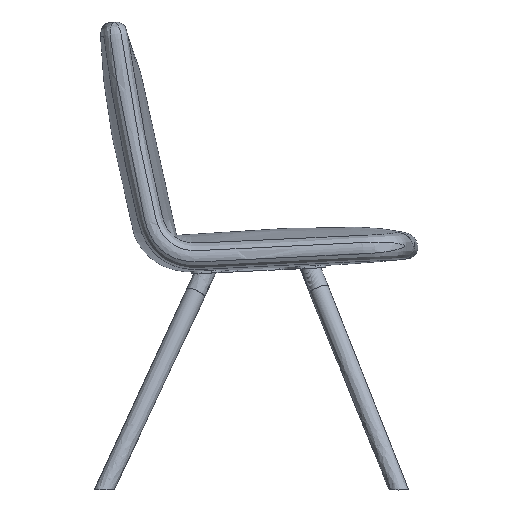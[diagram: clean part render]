
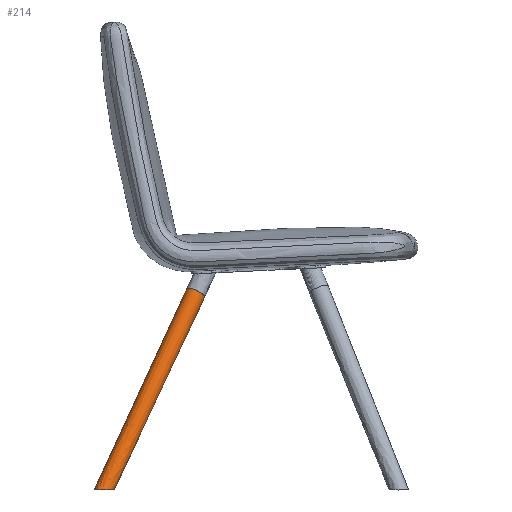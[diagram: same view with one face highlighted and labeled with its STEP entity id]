
A CAD part, left-side view. The second image highlights one B-rep face of the part: STEP entity #214.
In plain terms, the highlighted free-form (B-spline) face has degree [3, 2] with [4, 7] control points.
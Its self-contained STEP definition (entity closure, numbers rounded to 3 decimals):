
#20=(
BOUNDED_CURVE()
B_SPLINE_CURVE(2,(#7420,#7421,#7422,#7423,#7424,#7425,#7426),
 .UNSPECIFIED.,.F.,.F.)
B_SPLINE_CURVE_WITH_KNOTS((3,2,2,3),(0.,10.536,38.025,
65.514),.UNSPECIFIED.)
CURVE()
GEOMETRIC_REPRESENTATION_ITEM()
RATIONAL_B_SPLINE_CURVE((1.,0.956,1.,0.707,1.,0.707,
1.))
REPRESENTATION_ITEM('')
);
#21=(
BOUNDED_CURVE()
B_SPLINE_CURVE(3,(#7427,#7428,#7429,#7430),.UNSPECIFIED.,.F.,.F.)
B_SPLINE_CURVE_WITH_KNOTS((4,4),(28.477,418.11),
 .UNSPECIFIED.)
CURVE()
GEOMETRIC_REPRESENTATION_ITEM()
RATIONAL_B_SPLINE_CURVE((1.,1.,1.,1.))
REPRESENTATION_ITEM('')
);
#22=(
BOUNDED_CURVE()
B_SPLINE_CURVE(3,(#7431,#7432,#7433,#7434),.UNSPECIFIED.,.F.,.F.)
B_SPLINE_CURVE_WITH_KNOTS((4,4),(12.341,418.11),
 .UNSPECIFIED.)
CURVE()
GEOMETRIC_REPRESENTATION_ITEM()
RATIONAL_B_SPLINE_CURVE((1.,1.,1.,1.))
REPRESENTATION_ITEM('')
);
#128=(
BOUNDED_SURFACE()
B_SPLINE_SURFACE(3,2,((#7368,#7369,#7370,#7371,#7372,#7373,#7374),(#7375,
#7376,#7377,#7378,#7379,#7380,#7381),(#7382,#7383,#7384,#7385,#7386,#7387,
#7388),(#7389,#7390,#7391,#7392,#7393,#7394,#7395)),.UNSPECIFIED.,.F.,.F.,
 .F.)
B_SPLINE_SURFACE_WITH_KNOTS((4,4),(3,2,2,3),(0.,418.11),(0.,10.536,
38.025,65.514),.UNSPECIFIED.)
GEOMETRIC_REPRESENTATION_ITEM()
RATIONAL_B_SPLINE_SURFACE(((0.862,0.888,1.,0.707,
1.,0.707,1.),(0.862,0.888,1.,0.707,
1.,0.707,1.),(0.862,0.888,1.,0.707,
1.,0.707,1.),(0.862,0.888,1.,0.707,
1.,0.707,1.)))
REPRESENTATION_ITEM('')
SURFACE()
);
#214=ADVANCED_FACE('',(#271),#128,.T.);
#271=FACE_OUTER_BOUND('',#330,.T.);
#330=EDGE_LOOP('',(#426,#427,#428,#429));
#426=ORIENTED_EDGE('',*,*,#669,.F.);
#427=ORIENTED_EDGE('',*,*,#671,.T.);
#428=ORIENTED_EDGE('',*,*,#670,.T.);
#429=ORIENTED_EDGE('',*,*,#672,.F.);
#669=EDGE_CURVE('',#860,#861,#820,.T.);
#670=EDGE_CURVE('',#859,#862,#20,.T.);
#671=EDGE_CURVE('',#860,#859,#21,.T.);
#672=EDGE_CURVE('',#861,#862,#22,.T.);
#820=B_SPLINE_CURVE_WITH_KNOTS('',3,(#7400,#7401,#7402,#7403,#7404,#7405,
#7406,#7407,#7408,#7409,#7410,#7411,#7412,#7413,#7414,#7415,#7416,#7417,
#7418,#7419),.UNSPECIFIED.,.F.,.F.,(4,3,2,2,2,3,2,2,4),(0.,9.789,
16.811,23.816,30.782,37.748,50.996,
57.62,64.24),.UNSPECIFIED.);
#859=VERTEX_POINT('',#7396);
#860=VERTEX_POINT('',#7397);
#861=VERTEX_POINT('',#7398);
#862=VERTEX_POINT('',#7399);
#7368=CARTESIAN_POINT('',(-220.842,257.038,-25.099));
#7369=CARTESIAN_POINT('',(-224.783,254.17,-25.413));
#7370=CARTESIAN_POINT('',(-229.538,253.694,-24.406));
#7371=CARTESIAN_POINT('',(-245.117,252.135,-21.106));
#7372=CARTESIAN_POINT('',(-245.14,266.644,-14.361));
#7373=CARTESIAN_POINT('',(-245.163,281.153,-7.616));
#7374=CARTESIAN_POINT('',(-229.585,282.712,-10.916));
#7375=CARTESIAN_POINT('',(-188.782,199.529,97.739));
#7376=CARTESIAN_POINT('',(-192.846,196.57,97.415));
#7377=CARTESIAN_POINT('',(-197.75,196.08,98.454));
#7378=CARTESIAN_POINT('',(-213.815,194.472,101.856));
#7379=CARTESIAN_POINT('',(-213.839,209.435,108.812));
#7380=CARTESIAN_POINT('',(-213.863,224.397,115.767));
#7381=CARTESIAN_POINT('',(-197.798,226.004,112.365));
#7382=CARTESIAN_POINT('',(-156.722,142.019,220.576));
#7383=CARTESIAN_POINT('',(-160.909,138.971,220.242));
#7384=CARTESIAN_POINT('',(-165.962,138.466,221.313));
#7385=CARTESIAN_POINT('',(-182.514,136.809,224.819));
#7386=CARTESIAN_POINT('',(-182.539,152.225,231.985));
#7387=CARTESIAN_POINT('',(-182.563,167.641,239.151));
#7388=CARTESIAN_POINT('',(-166.011,169.297,235.645));
#7389=CARTESIAN_POINT('',(-124.662,84.509,343.414));
#7390=CARTESIAN_POINT('',(-128.973,81.372,343.07));
#7391=CARTESIAN_POINT('',(-134.174,80.851,344.172));
#7392=CARTESIAN_POINT('',(-151.213,79.147,347.781));
#7393=CARTESIAN_POINT('',(-151.238,95.016,355.158));
#7394=CARTESIAN_POINT('',(-151.263,110.885,362.535));
#7395=CARTESIAN_POINT('',(-134.225,112.59,358.926));
#7396=CARTESIAN_POINT('',(-124.662,84.509,343.414));
#7397=CARTESIAN_POINT('',(-214.291,245.288,0.));
#7398=CARTESIAN_POINT('',(-226.77,277.69,0.));
#7399=CARTESIAN_POINT('',(-134.225,112.59,358.926));
#7400=CARTESIAN_POINT('',(-214.291,245.288,0.));
#7401=CARTESIAN_POINT('',(-216.856,243.283,0.));
#7402=CARTESIAN_POINT('',(-219.978,242.251,0.));
#7403=CARTESIAN_POINT('',(-223.224,242.249,0.));
#7404=CARTESIAN_POINT('',(-225.561,242.247,0.));
#7405=CARTESIAN_POINT('',(-227.863,242.778,0.));
#7406=CARTESIAN_POINT('',(-232.114,244.684,0.));
#7407=CARTESIAN_POINT('',(-234.037,246.044,0.));
#7408=CARTESIAN_POINT('',(-237.303,249.331,0.));
#7409=CARTESIAN_POINT('',(-238.644,251.249,0.));
#7410=CARTESIAN_POINT('',(-240.625,255.421,0.));
#7411=CARTESIAN_POINT('',(-241.264,257.674,0.));
#7412=CARTESIAN_POINT('',(-241.49,259.974,0.));
#7413=CARTESIAN_POINT('',(-241.915,264.287,0.));
#7414=CARTESIAN_POINT('',(-240.871,268.721,0.));
#7415=CARTESIAN_POINT('',(-236.796,273.903,0.));
#7416=CARTESIAN_POINT('',(-235.082,275.297,0.));
#7417=CARTESIAN_POINT('',(-231.123,277.209,0.));
#7418=CARTESIAN_POINT('',(-228.965,277.685,0.));
#7419=CARTESIAN_POINT('',(-226.77,277.69,0.));
#7420=CARTESIAN_POINT('',(-124.662,84.509,343.414));
#7421=CARTESIAN_POINT('',(-128.973,81.372,343.07));
#7422=CARTESIAN_POINT('',(-134.174,80.851,344.172));
#7423=CARTESIAN_POINT('',(-151.213,79.147,347.781));
#7424=CARTESIAN_POINT('',(-151.238,95.016,355.158));
#7425=CARTESIAN_POINT('',(-151.263,110.885,362.535));
#7426=CARTESIAN_POINT('',(-134.225,112.59,358.926));
#7427=CARTESIAN_POINT('',(-214.291,245.288,0.));
#7428=CARTESIAN_POINT('',(-184.415,191.695,114.471));
#7429=CARTESIAN_POINT('',(-154.538,138.102,228.943));
#7430=CARTESIAN_POINT('',(-124.662,84.509,343.414));
#7431=CARTESIAN_POINT('',(-226.77,277.69,0.));
#7432=CARTESIAN_POINT('',(-195.922,222.657,119.642));
#7433=CARTESIAN_POINT('',(-165.073,167.623,239.284));
#7434=CARTESIAN_POINT('',(-134.225,112.59,358.926));
